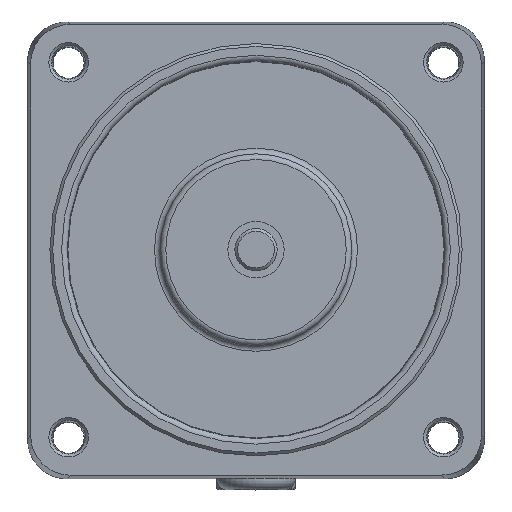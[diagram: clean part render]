
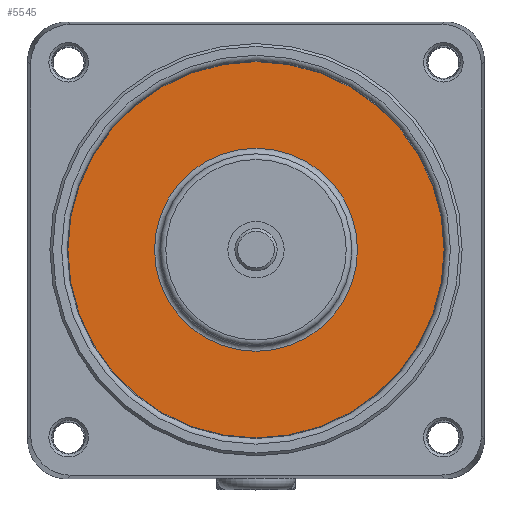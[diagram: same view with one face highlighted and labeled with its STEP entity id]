
A CAD part, top view. The second image highlights one B-rep face of the part: STEP entity #5545.
In plain terms, the highlighted planar face has unit normal (0, 0, 1).
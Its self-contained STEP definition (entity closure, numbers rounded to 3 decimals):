
#354 = DIRECTION ( 'NONE',  ( 1., 0., 0. ) ) ;
#392 = AXIS2_PLACEMENT_3D ( 'NONE', #2283, #7308, #6452 ) ;
#437 = CARTESIAN_POINT ( 'NONE',  ( 0., 0., 71.5 ) ) ;
#926 = CIRCLE ( 'NONE', #6129, 18. ) ;
#1112 = CARTESIAN_POINT ( 'NONE',  ( 33.36, 0., 71.5 ) ) ;
#2232 = EDGE_CURVE ( 'NONE', #3672, #3672, #2242, .T. ) ;
#2242 = CIRCLE ( 'NONE', #392, 33.36 ) ;
#2283 = CARTESIAN_POINT ( 'NONE',  ( 0., 0., 71.5 ) ) ;
#2640 = ORIENTED_EDGE ( 'NONE', *, *, #4818, .T. ) ;
#2967 = DIRECTION ( 'NONE',  ( 0., 0., -1. ) ) ;
#3672 = VERTEX_POINT ( 'NONE', #1112 ) ;
#3714 = EDGE_LOOP ( 'NONE', ( #6548 ) ) ;
#3876 = AXIS2_PLACEMENT_3D ( 'NONE', #437, #5553, #354 ) ;
#4365 = EDGE_LOOP ( 'NONE', ( #2640 ) ) ;
#4818 = EDGE_CURVE ( 'NONE', #7193, #7193, #926, .T. ) ;
#4916 = FACE_BOUND ( 'NONE', #4365, .T. ) ;
#5518 = PLANE ( 'NONE',  #3876 ) ;
#5545 = ADVANCED_FACE ( 'NONE', ( #4916, #6066 ), #5518, .T. ) ;
#5553 = DIRECTION ( 'NONE',  ( 0., 0., 1. ) ) ;
#5757 = CARTESIAN_POINT ( 'NONE',  ( 18., 0., 71.5 ) ) ;
#6066 = FACE_OUTER_BOUND ( 'NONE', #3714, .T. ) ;
#6129 = AXIS2_PLACEMENT_3D ( 'NONE', #6615, #2967, #7276 ) ;
#6452 = DIRECTION ( 'NONE',  ( 1., 0., 0. ) ) ;
#6548 = ORIENTED_EDGE ( 'NONE', *, *, #2232, .T. ) ;
#6615 = CARTESIAN_POINT ( 'NONE',  ( 0., 0., 71.5 ) ) ;
#7193 = VERTEX_POINT ( 'NONE', #5757 ) ;
#7276 = DIRECTION ( 'NONE',  ( 1., 0., 0. ) ) ;
#7308 = DIRECTION ( 'NONE',  ( 0., 0., 1. ) ) ;
